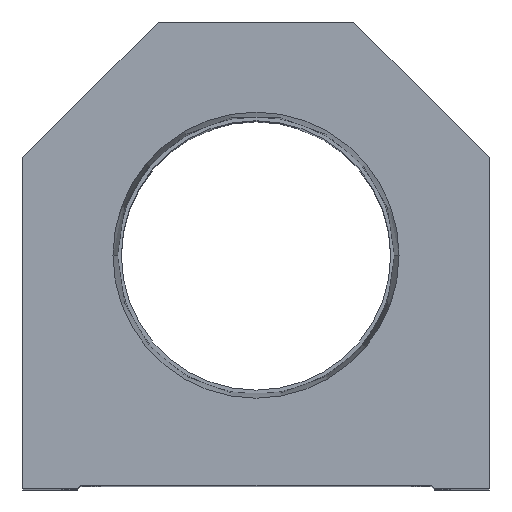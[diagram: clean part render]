
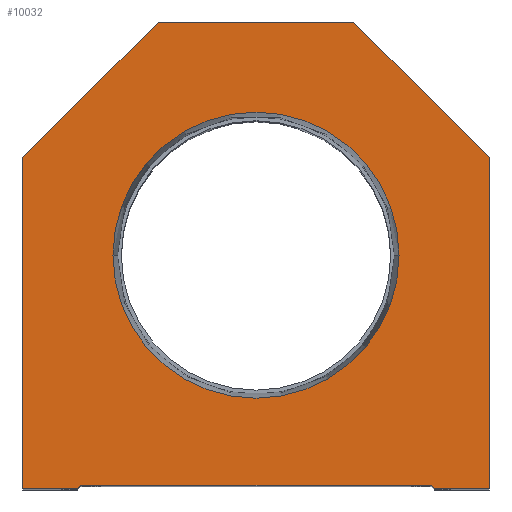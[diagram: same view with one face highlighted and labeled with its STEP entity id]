
A CAD part, top view. The second image highlights one B-rep face of the part: STEP entity #10032.
In plain terms, the highlighted planar face has unit normal (0, 0, 1).
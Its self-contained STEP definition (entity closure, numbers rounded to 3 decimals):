
#276 = CARTESIAN_POINT ( 'NONE',  ( 0., 38.1, 0. ) ) ;
#581 = VECTOR ( 'NONE', #2886, 1000. ) ;
#710 = CARTESIAN_POINT ( 'NONE',  ( 28.6, 0., 0. ) ) ;
#831 = EDGE_CURVE ( 'NONE', #6648, #5570, #7017, .T. ) ;
#907 = PLANE ( 'NONE',  #10838 ) ;
#1012 = VECTOR ( 'NONE', #10506, 1000. ) ;
#1056 = VERTEX_POINT ( 'NONE', #5053 ) ;
#1064 = CARTESIAN_POINT ( 'NONE',  ( -28.6, 0.5, 0. ) ) ;
#1109 = DIRECTION ( 'NONE',  ( 0., 0., 1. ) ) ;
#1192 = CARTESIAN_POINT ( 'NONE',  ( 14.55, 14.55, 0. ) ) ;
#1214 = CARTESIAN_POINT ( 'NONE',  ( -14.55, 14.55, 0. ) ) ;
#1516 = CARTESIAN_POINT ( 'NONE',  ( -28.6, 0., 0. ) ) ;
#1564 = AXIS2_PLACEMENT_3D ( 'NONE', #9034, #12518, #3124 ) ;
#1938 = ORIENTED_EDGE ( 'NONE', *, *, #13270, .T. ) ;
#2036 = LINE ( 'NONE', #12956, #12221 ) ;
#2140 = VERTEX_POINT ( 'NONE', #5207 ) ;
#2274 = DIRECTION ( 'NONE',  ( -0.707, -0.707, 0. ) ) ;
#2351 = LINE ( 'NONE', #1192, #7264 ) ;
#2421 = VECTOR ( 'NONE', #13921, 1000. ) ;
#2435 = VERTEX_POINT ( 'NONE', #12107 ) ;
#2619 = CARTESIAN_POINT ( 'NONE',  ( 23.374, 38.1, 0. ) ) ;
#2682 = VECTOR ( 'NONE', #5265, 1000. ) ;
#2886 = DIRECTION ( 'NONE',  ( 0., -1., 0. ) ) ;
#3093 = VECTOR ( 'NONE', #12753, 1000. ) ;
#3124 = DIRECTION ( 'NONE',  ( 1., 0., 0. ) ) ;
#3437 = VERTEX_POINT ( 'NONE', #13335 ) ;
#3855 = CIRCLE ( 'NONE', #4586, 23.374 ) ;
#4402 = ORIENTED_EDGE ( 'NONE', *, *, #14509, .T. ) ;
#4586 = AXIS2_PLACEMENT_3D ( 'NONE', #276, #1109, #8165 ) ;
#5053 = CARTESIAN_POINT ( 'NONE',  ( -16., 76.2, 0. ) ) ;
#5207 = CARTESIAN_POINT ( 'NONE',  ( 16., 76.2, 0. ) ) ;
#5265 = DIRECTION ( 'NONE',  ( 1., 0., 0. ) ) ;
#5277 = ORIENTED_EDGE ( 'NONE', *, *, #15217, .F. ) ;
#5476 = EDGE_LOOP ( 'NONE', ( #4402, #6013, #8007, #1938, #11236, #10795, #15261, #6681, #10809, #10601 ) ) ;
#5570 = VERTEX_POINT ( 'NONE', #8782 ) ;
#5776 = CARTESIAN_POINT ( 'NONE',  ( 0., 0., 0. ) ) ;
#6013 = ORIENTED_EDGE ( 'NONE', *, *, #831, .T. ) ;
#6648 = VERTEX_POINT ( 'NONE', #9768 ) ;
#6681 = ORIENTED_EDGE ( 'NONE', *, *, #8630, .T. ) ;
#6978 = VERTEX_POINT ( 'NONE', #14626 ) ;
#7005 = LINE ( 'NONE', #13855, #2421 ) ;
#7017 = LINE ( 'NONE', #1214, #1012 ) ;
#7048 = VECTOR ( 'NONE', #10674, 1000. ) ;
#7263 = VERTEX_POINT ( 'NONE', #2619 ) ;
#7264 = VECTOR ( 'NONE', #15250, 1000. ) ;
#7518 = CARTESIAN_POINT ( 'NONE',  ( -23.374, 38.1, 0. ) ) ;
#7597 = VECTOR ( 'NONE', #2274, 1000. ) ;
#7628 = CARTESIAN_POINT ( 'NONE',  ( -38.1, 0., 0. ) ) ;
#8007 = ORIENTED_EDGE ( 'NONE', *, *, #10015, .T. ) ;
#8012 = CARTESIAN_POINT ( 'NONE',  ( 16., 76.2, 0. ) ) ;
#8026 = CARTESIAN_POINT ( 'NONE',  ( -38.1, 54.1, 0. ) ) ;
#8038 = FACE_OUTER_BOUND ( 'NONE', #5476, .T. ) ;
#8165 = DIRECTION ( 'NONE',  ( 1., 0., 0. ) ) ;
#8174 = LINE ( 'NONE', #8012, #3093 ) ;
#8324 = VERTEX_POINT ( 'NONE', #10295 ) ;
#8630 = EDGE_CURVE ( 'NONE', #2140, #1056, #8174, .T. ) ;
#8782 = CARTESIAN_POINT ( 'NONE',  ( -28.6, 0.5, 0. ) ) ;
#8805 = ORIENTED_EDGE ( 'NONE', *, *, #13144, .F. ) ;
#8872 = LINE ( 'NONE', #710, #2682 ) ;
#9034 = CARTESIAN_POINT ( 'NONE',  ( 0., 38.1, 0. ) ) ;
#9216 = FACE_BOUND ( 'NONE', #14692, .T. ) ;
#9324 = LINE ( 'NONE', #14066, #7597 ) ;
#9382 = EDGE_CURVE ( 'NONE', #1056, #11955, #9324, .T. ) ;
#9768 = CARTESIAN_POINT ( 'NONE',  ( -29.1, 0., 0. ) ) ;
#10015 = EDGE_CURVE ( 'NONE', #5570, #12797, #12866, .T. ) ;
#10032 = ADVANCED_FACE ( 'NONE', ( #9216, #8038 ), #907, .T. ) ;
#10262 = EDGE_CURVE ( 'NONE', #6978, #2435, #7005, .T. ) ;
#10295 = CARTESIAN_POINT ( 'NONE',  ( -38.1, 0., 0. ) ) ;
#10380 = DIRECTION ( 'NONE',  ( 0., 0., 1. ) ) ;
#10506 = DIRECTION ( 'NONE',  ( 0.707, 0.707, 0. ) ) ;
#10601 = ORIENTED_EDGE ( 'NONE', *, *, #13408, .T. ) ;
#10674 = DIRECTION ( 'NONE',  ( 1., 0., 0. ) ) ;
#10720 = EDGE_CURVE ( 'NONE', #3437, #6978, #8872, .T. ) ;
#10795 = ORIENTED_EDGE ( 'NONE', *, *, #10262, .T. ) ;
#10809 = ORIENTED_EDGE ( 'NONE', *, *, #9382, .T. ) ;
#10838 = AXIS2_PLACEMENT_3D ( 'NONE', #5776, #10380, #13948 ) ;
#11236 = ORIENTED_EDGE ( 'NONE', *, *, #10720, .T. ) ;
#11716 = DIRECTION ( 'NONE',  ( -0.707, 0.707, 0. ) ) ;
#11955 = VERTEX_POINT ( 'NONE', #8026 ) ;
#12107 = CARTESIAN_POINT ( 'NONE',  ( 38.1, 54.1, 0. ) ) ;
#12137 = LINE ( 'NONE', #1516, #7048 ) ;
#12221 = VECTOR ( 'NONE', #11716, 1000. ) ;
#12501 = LINE ( 'NONE', #7628, #581 ) ;
#12518 = DIRECTION ( 'NONE',  ( 0., 0., 1. ) ) ;
#12702 = DIRECTION ( 'NONE',  ( 1., 0., 0. ) ) ;
#12753 = DIRECTION ( 'NONE',  ( -1., 0., 0. ) ) ;
#12797 = VERTEX_POINT ( 'NONE', #14377 ) ;
#12866 = LINE ( 'NONE', #1064, #13308 ) ;
#12956 = CARTESIAN_POINT ( 'NONE',  ( 38.1, 54.1, 0. ) ) ;
#13144 = EDGE_CURVE ( 'NONE', #7263, #14652, #14721, .T. ) ;
#13270 = EDGE_CURVE ( 'NONE', #12797, #3437, #2351, .T. ) ;
#13308 = VECTOR ( 'NONE', #12702, 1000. ) ;
#13335 = CARTESIAN_POINT ( 'NONE',  ( 29.1, 0., 0. ) ) ;
#13408 = EDGE_CURVE ( 'NONE', #11955, #8324, #12501, .T. ) ;
#13494 = EDGE_CURVE ( 'NONE', #2435, #2140, #2036, .T. ) ;
#13855 = CARTESIAN_POINT ( 'NONE',  ( 38.1, 0., 0. ) ) ;
#13921 = DIRECTION ( 'NONE',  ( 0., 1., 0. ) ) ;
#13948 = DIRECTION ( 'NONE',  ( 1., 0., 0. ) ) ;
#14066 = CARTESIAN_POINT ( 'NONE',  ( -38.1, 54.1, 0. ) ) ;
#14377 = CARTESIAN_POINT ( 'NONE',  ( 28.6, 0.5, 0. ) ) ;
#14509 = EDGE_CURVE ( 'NONE', #8324, #6648, #12137, .T. ) ;
#14626 = CARTESIAN_POINT ( 'NONE',  ( 38.1, 0., 0. ) ) ;
#14652 = VERTEX_POINT ( 'NONE', #7518 ) ;
#14692 = EDGE_LOOP ( 'NONE', ( #8805, #5277 ) ) ;
#14721 = CIRCLE ( 'NONE', #1564, 23.374 ) ;
#15217 = EDGE_CURVE ( 'NONE', #14652, #7263, #3855, .T. ) ;
#15250 = DIRECTION ( 'NONE',  ( 0.707, -0.707, 0. ) ) ;
#15261 = ORIENTED_EDGE ( 'NONE', *, *, #13494, .T. ) ;
